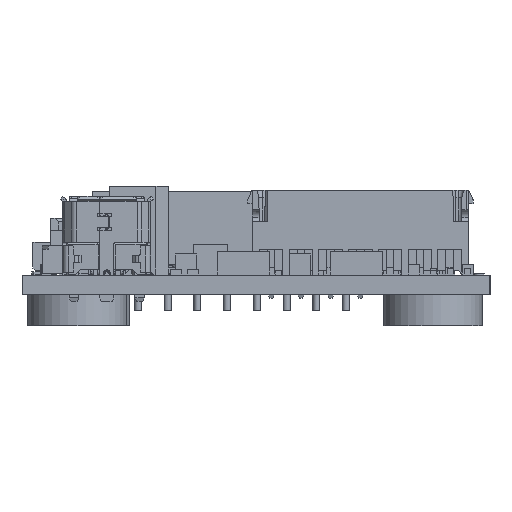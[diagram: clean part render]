
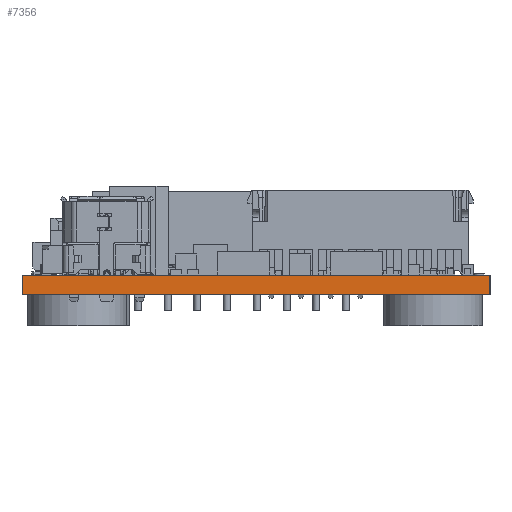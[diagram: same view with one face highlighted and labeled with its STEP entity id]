
A CAD part, left-side view. The second image highlights one B-rep face of the part: STEP entity #7356.
In plain terms, the highlighted planar face has unit normal (-1, 0, 0).
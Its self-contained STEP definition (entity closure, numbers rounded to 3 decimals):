
#1487=FACE_OUTER_BOUND('',#49173,.T.);
#7356=ADVANCED_FACE('',(#1487),#13500,.T.);
#13500=PLANE('',#117246);
#20847=LINE('',#157504,#34484);
#21257=LINE('',#158394,#34894);
#21258=LINE('',#158396,#34895);
#21259=LINE('',#158398,#34896);
#34484=VECTOR('',#125793,1.);
#34894=VECTOR('',#126245,1.);
#34895=VECTOR('',#126246,1.);
#34896=VECTOR('',#126247,1.);
#49173=EDGE_LOOP('',(#57252,#57253,#57254,#57255));
#57252=ORIENTED_EDGE('',*,*,#101101,.T.);
#57253=ORIENTED_EDGE('',*,*,#100665,.T.);
#57254=ORIENTED_EDGE('',*,*,#101102,.F.);
#57255=ORIENTED_EDGE('',*,*,#101103,.F.);
#89776=VERTEX_POINT('',#157499);
#89778=VERTEX_POINT('',#157503);
#90214=VERTEX_POINT('',#158395);
#90215=VERTEX_POINT('',#158397);
#100665=EDGE_CURVE('',#89776,#89778,#20847,.T.);
#101101=EDGE_CURVE('',#90214,#89776,#21257,.T.);
#101102=EDGE_CURVE('',#90215,#89778,#21258,.T.);
#101103=EDGE_CURVE('',#90214,#90215,#21259,.T.);
#117246=AXIS2_PLACEMENT_3D('',#158399,#126248,#126249);
#125793=DIRECTION('',(0.,1.,0.));
#126245=DIRECTION('',(0.,0.,1.));
#126246=DIRECTION('',(0.,0.,1.));
#126247=DIRECTION('',(0.,1.,0.));
#126248=DIRECTION('',(-1.,0.,0.));
#126249=DIRECTION('',(0.,-1.,0.));
#157499=CARTESIAN_POINT('',(0.,0.,0.));
#157503=CARTESIAN_POINT('',(0.,40.,0.));
#157504=CARTESIAN_POINT('',(0.,0.,0.));
#158394=CARTESIAN_POINT('',(0.,0.,-1.662));
#158395=CARTESIAN_POINT('',(0.,0.,-1.662));
#158396=CARTESIAN_POINT('',(0.,40.,-1.662));
#158397=CARTESIAN_POINT('',(0.,40.,-1.662));
#158398=CARTESIAN_POINT('',(0.,0.,-1.662));
#158399=CARTESIAN_POINT('',(0.,0.,-1.662));
